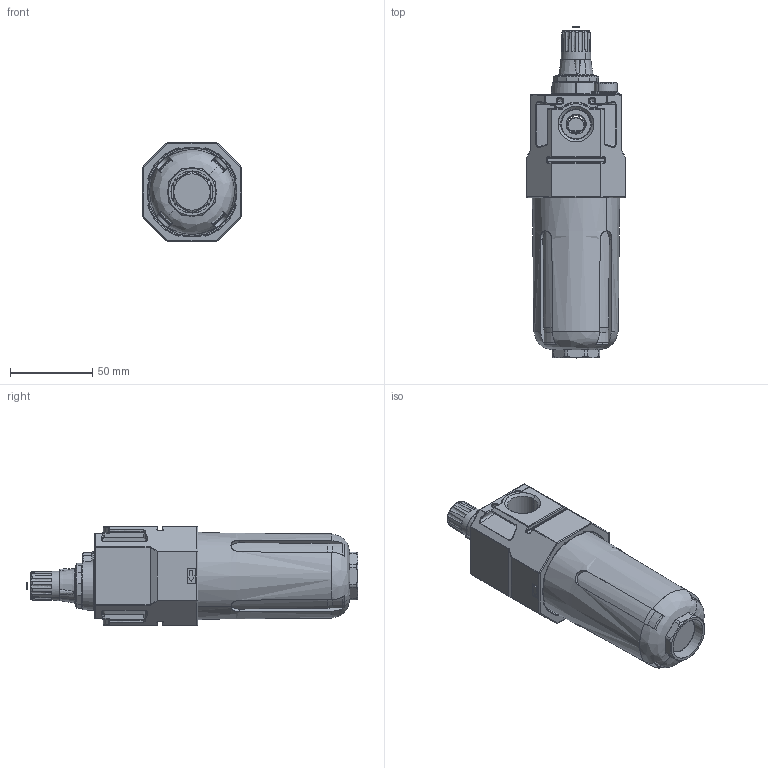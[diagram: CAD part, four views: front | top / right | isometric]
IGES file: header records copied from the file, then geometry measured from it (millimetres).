
Start section: SolidWorks IGES file using analytic representation for surfaces
Bounding box: 60 x 201.25 x 60 mm (x, y, z)
Surface area: 108677 mm2 (no closed solid volume)
Topology: 0 solids, 0 shells, 1714 faces, 47147 edges, 56027 vertices
Faces by surface type: bspline 867, revolution 847
